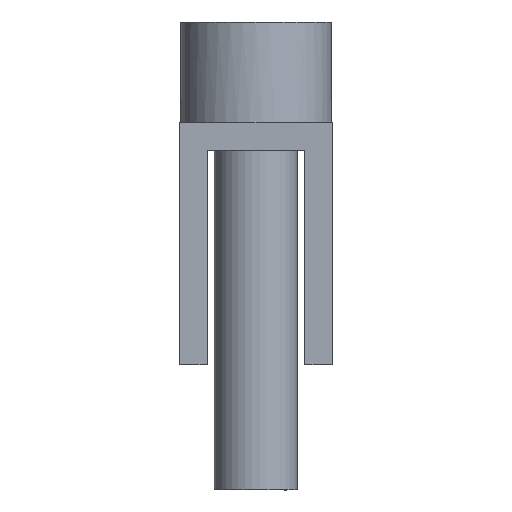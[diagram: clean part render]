
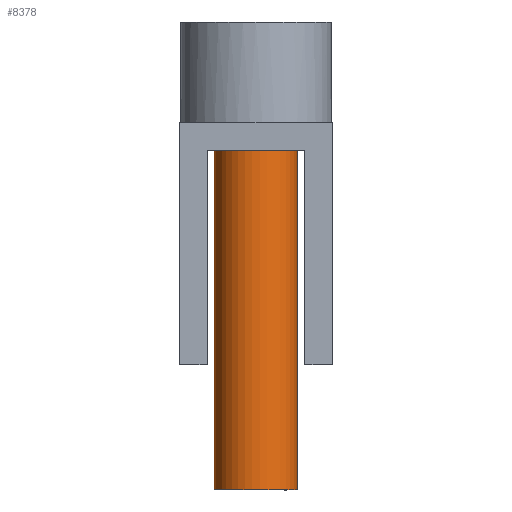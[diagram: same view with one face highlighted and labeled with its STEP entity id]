
A CAD part, left-side view. The second image highlights one B-rep face of the part: STEP entity #8378.
In plain terms, the highlighted cylindrical face has radius 1.5 mm (diameter 3 mm), a full revolution.
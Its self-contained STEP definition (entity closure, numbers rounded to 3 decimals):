
#8332=CARTESIAN_POINT('',(1.652,1.689,0.));
#8333=VERTEX_POINT('',#8332);
#8334=CARTESIAN_POINT('',(3.773,3.811,0.));
#8335=VERTEX_POINT('',#8334);
#8336=CARTESIAN_POINT('',(2.713,2.75,0.));
#8337=DIRECTION('',(-0.707,-0.707,0.));
#8338=DIRECTION('',(0.,0.,1.));
#8339=AXIS2_PLACEMENT_3D('',#8336,#8338,#8337);
#8340=CIRCLE('',#8339,1.5);
#8341=EDGE_CURVE('',#8333,#8335,#8340,.T.);
#8343=CARTESIAN_POINT('',(2.713,2.75,0.));
#8344=DIRECTION('',(0.707,0.707,0.));
#8345=DIRECTION('',(0.,0.,1.));
#8346=AXIS2_PLACEMENT_3D('',#8343,#8345,#8344);
#8347=CIRCLE('',#8346,1.5);
#8348=EDGE_CURVE('',#8335,#8333,#8347,.T.);
#8353=CARTESIAN_POINT('',(2.713,2.75,12.2));
#8354=DIRECTION('',(-0.707,-0.707,0.));
#8355=DIRECTION('',(0.,0.,-1.));
#8356=AXIS2_PLACEMENT_3D('',#8353,#8355,#8354);
#8357=CYLINDRICAL_SURFACE('',#8356,1.5);
#8358=CARTESIAN_POINT('',(1.652,1.689,12.2));
#8359=VERTEX_POINT('',#8358);
#8360=CARTESIAN_POINT('',(2.713,2.75,12.2));
#8361=DIRECTION('',(-0.707,-0.707,0.));
#8362=DIRECTION('',(0.,0.,1.));
#8363=AXIS2_PLACEMENT_3D('',#8360,#8362,#8361);
#8364=CIRCLE('',#8363,1.5);
#8365=EDGE_CURVE('',#8359,#8359,#8364,.T.);
#8366=ORIENTED_EDGE('E728',*,*,#8365,.F.);
#8367=CARTESIAN_POINT('',(1.652,1.689,12.2));
#8368=DIRECTION('',(0.,0.,-1.));
#8369=VECTOR('',#8368,12.2);
#8370=LINE('',#8367,#8369);
#8371=EDGE_CURVE('',#8359,#8333,#8370,.T.);
#8372=ORIENTED_EDGE('E729',*,*,#8371,.T.);
#8373=ORIENTED_EDGE('E729',*,*,#8341,.T.);
#8374=ORIENTED_EDGE('E729',*,*,#8348,.T.);
#8375=ORIENTED_EDGE('E729',*,*,#8371,.F.);
#8376=EDGE_LOOP('',(#8366,#8372,#8373,#8374,#8375));
#8377=FACE_OUTER_BOUND('',#8376,.T.);
#8378=ADVANCED_FACE('F272',(#8377),#8357,.T.);
